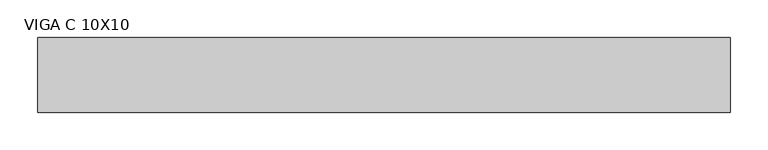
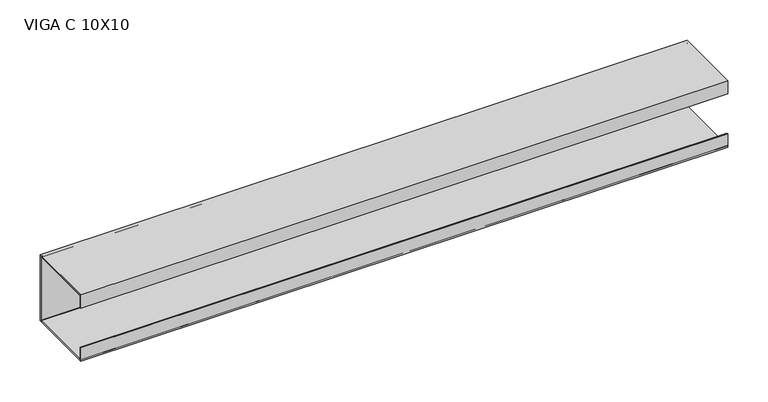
"""IFC4 building model written with IfcOpenShell, lengths in millimetres: beam geometry, VIGA PERFIL C AÇO : VIGA C 10X10."""

from ifc_helpers import new_model, si_unit, point, frame, frame_2d, origin, place, context, project, spatial, polyline, circle_curve, trimmed, segment, composite_curve, outline, extrude, source, transform, mapped, element, save


def viga_c_10x10_ea181fc1(model_context):
    return source(origin(), model_context, "Body", "SweptSolid", [
        extrude(outline(polyline([(9.2, -50.0), (-90.8, -50.0), (-90.8, -30.0), (-88.9, -30.0), (-88.9, -48.1), (7.3, -48.1), (7.3, 48.1), (-88.9, 48.1), (-88.9, 30.0), (-90.8, 30.0), (-90.8, 50.0), (9.2, 50.0), (9.2, -50.0)])), frame((-427.0, 0.0, 0.0), z_axis=(1.0, 0.0, 0.0), x_axis=(0.0, 1.0, 0.0)), (0.0, 0.0, 1.0), 922.0),
        extrude(outline(composite_curve([segment(trimmed(circle_curve(frame_2d((5.4, -46.2)), 3.8), [point((9.2, -46.2))], [point((5.4, -50.0))], False, "CARTESIAN"), True, "CONTINUOUS"), segment(polyline([(5.4, -50.0), (-87.0, -50.0)]), True, "CONTINUOUS"), segment(trimmed(circle_curve(frame_2d((-87.0, -46.2)), 3.8), [point((-87.0, -50.0))], [point((-90.8, -46.2))], False, "CARTESIAN"), True, "CONTINUOUS"), segment(polyline([(-90.8, -46.2), (-90.8, -30.0), (-88.9, -30.0), (-88.9, -46.2)]), True, "CONTINUOUS"), segment(trimmed(circle_curve(frame_2d((-87.0, -46.2)), 1.9), [point((-88.9, -46.2))], [point((-87.0, -48.1))], True, "CARTESIAN"), True, "CONTINUOUS"), segment(polyline([(-87.0, -48.1), (5.4, -48.1)]), True, "CONTINUOUS"), segment(trimmed(circle_curve(frame_2d((5.4, -46.2)), 1.9), [point((5.4, -48.1))], [point((7.3, -46.2))], True, "CARTESIAN"), True, "CONTINUOUS"), segment(polyline([(7.3, -46.2), (7.3, 46.2)]), True, "CONTINUOUS"), segment(trimmed(circle_curve(frame_2d((5.4, 46.2)), 1.9), [point((7.3, 46.2))], [point((5.4, 48.1))], True, "CARTESIAN"), True, "CONTINUOUS"), segment(polyline([(5.4, 48.1), (-87.0, 48.1)]), True, "CONTINUOUS"), segment(trimmed(circle_curve(frame_2d((-87.0, 46.2)), 1.9), [point((-87.0, 48.1))], [point((-88.9, 46.2))], True, "CARTESIAN"), True, "CONTINUOUS"), segment(polyline([(-88.9, 46.2), (-88.9, 30.0), (-90.8, 30.0), (-90.8, 46.2)]), True, "CONTINUOUS"), segment(trimmed(circle_curve(frame_2d((-87.0, 46.2)), 3.8), [point((-90.8, 46.2))], [point((-87.0, 50.0))], False, "CARTESIAN"), True, "CONTINUOUS"), segment(polyline([(-87.0, 50.0), (5.4, 50.0)]), True, "CONTINUOUS"), segment(trimmed(circle_curve(frame_2d((5.4, 46.2)), 3.8), [point((5.4, 50.0))], [point((9.2, 46.2))], False, "CARTESIAN"), True, "CONTINUOUS"), segment(polyline([(9.2, 46.2), (9.2, -46.2)]), True, "CONTINUOUS")], self_intersect=False)), frame((-427.0, 0.0, 0.0), z_axis=(1.0, 0.0, 0.0), x_axis=(0.0, 1.0, 0.0)), (0.0, 0.0, 1.0), 922.0),
    ])


if __name__ == "__main__":
    model = new_model("IFC4")
    model_context = context("Model", 3, world=origin())
    ifc_project = project(units=[si_unit("LENGTHUNIT", "METRE", prefix="MILLI")], contexts=[model_context])
    site = spatial("IfcSite", under=ifc_project)
    building = spatial("IfcBuilding", under=site)
    placement = place(None, origin())
    viga_c_10x10_shape = viga_c_10x10_ea181fc1(model_context)
    element("IfcBeam", 1, ObjectType="VIGA PERFIL C AÇO : VIGA C 10X10", at=placement, inside=building, context=model_context, shape_type="MappedRepresentation", body=[
        mapped(viga_c_10x10_shape, transform((0.0, 0.0, 0.0), x_axis=(1.0, 0.0, 0.0), y_axis=(0.0, 1.0, 0.0), z_axis=(0.0, 0.0, 1.0))),
    ])
    save(model, "model.ifc")
